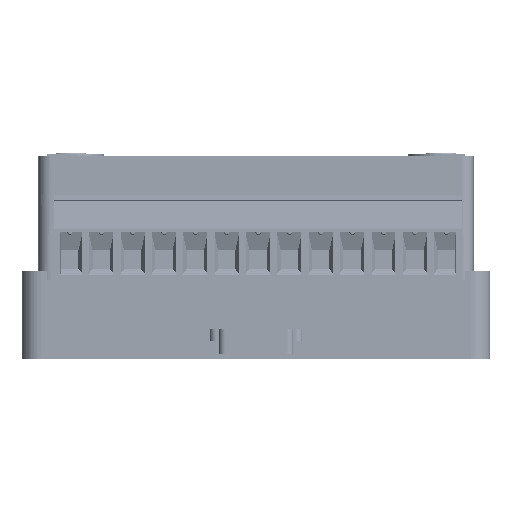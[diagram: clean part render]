
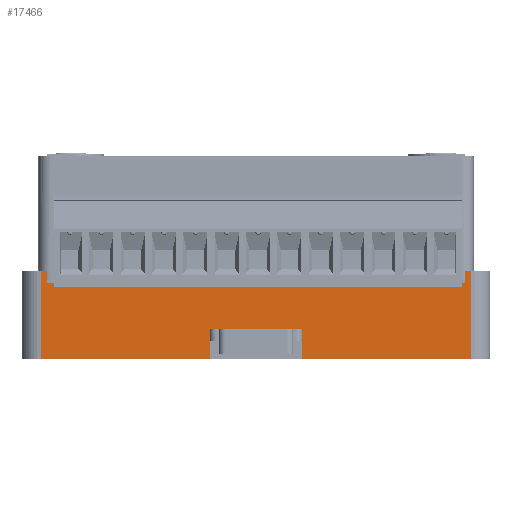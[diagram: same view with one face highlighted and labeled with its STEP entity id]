
A CAD part, front view. The second image highlights one B-rep face of the part: STEP entity #17466.
In plain terms, the highlighted planar face has unit normal (0, -1, 0).
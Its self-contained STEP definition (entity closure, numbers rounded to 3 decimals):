
#17466=ADVANCED_FACE('',(#86034),#86036,.F.);
#86034=FACE_BOUND('',#86035,.T.);
#86035=EDGE_LOOP('',(#137055,#137056,#137057,#137058,#137059,#137060,#137061,#137062,
#137063,#137064,#137065,#137066,#137067,#137068,#137069,#137070));
#86036=PLANE('',#86037);
#86037=AXIS2_PLACEMENT_3D('',#86038,#86039,#86040);
#86038=CARTESIAN_POINT('',(-37.9,-51.95,14.4));
#86039=DIRECTION('',(0.,1.,0.));
#86040=DIRECTION('',(0.,0.,1.));
#137055=ORIENTED_EDGE('',*,*,#189620,.F.);
#137056=ORIENTED_EDGE('',*,*,#189621,.F.);
#137057=ORIENTED_EDGE('',*,*,#189622,.T.);
#137058=ORIENTED_EDGE('',*,*,#189623,.T.);
#137059=ORIENTED_EDGE('',*,*,#189624,.T.);
#137060=ORIENTED_EDGE('',*,*,#189434,.F.);
#137061=ORIENTED_EDGE('',*,*,#189466,.T.);
#137062=ORIENTED_EDGE('',*,*,#189464,.F.);
#137063=ORIENTED_EDGE('',*,*,#189463,.T.);
#137064=ORIENTED_EDGE('',*,*,#189450,.F.);
#137065=ORIENTED_EDGE('',*,*,#189625,.T.);
#137066=ORIENTED_EDGE('',*,*,#189626,.T.);
#137067=ORIENTED_EDGE('',*,*,#189627,.F.);
#137068=ORIENTED_EDGE('',*,*,#189628,.F.);
#137069=ORIENTED_EDGE('',*,*,#189629,.F.);
#137070=ORIENTED_EDGE('',*,*,#189470,.F.);
#189434=EDGE_CURVE('',#215297,#215299,#215300,.T.);
#189450=EDGE_CURVE('',#215326,#215318,#215328,.T.);
#189463=EDGE_CURVE('',#215346,#215318,#215348,.T.);
#189464=EDGE_CURVE('',#215346,#215349,#215350,.T.);
#189466=EDGE_CURVE('',#215297,#215349,#215352,.T.);
#189470=EDGE_CURVE('',#215356,#215358,#215359,.T.);
#189620=EDGE_CURVE('',#215593,#215356,#215594,.T.);
#189621=EDGE_CURVE('',#215595,#215593,#215596,.T.);
#189622=EDGE_CURVE('',#215595,#215597,#215598,.T.);
#189623=EDGE_CURVE('',#215597,#215599,#215600,.T.);
#189624=EDGE_CURVE('',#215599,#215299,#215601,.T.);
#189625=EDGE_CURVE('',#215326,#215602,#215603,.T.);
#189626=EDGE_CURVE('',#215602,#215604,#215605,.T.);
#189627=EDGE_CURVE('',#215606,#215604,#215607,.T.);
#189628=EDGE_CURVE('',#215608,#215606,#215609,.T.);
#189629=EDGE_CURVE('',#215358,#215608,#215610,.T.);
#215297=VERTEX_POINT('',#274654);
#215299=VERTEX_POINT('',#274658);
#215300=LINE('',#274659,#274660);
#215318=VERTEX_POINT('',#274701);
#215326=VERTEX_POINT('',#274718);
#215328=LINE('',#274723,#274724);
#215346=VERTEX_POINT('',#274765);
#215348=LINE('',#274769,#274770);
#215349=VERTEX_POINT('',#274772);
#215350=LINE('',#274773,#274774);
#215352=LINE('',#274779,#274780);
#215356=VERTEX_POINT('',#274789);
#215358=VERTEX_POINT('',#274793);
#215359=LINE('',#274794,#274795);
#215593=VERTEX_POINT('',#275349);
#215594=LINE('',#275350,#275351);
#215595=VERTEX_POINT('',#275353);
#215596=LINE('',#275354,#275355);
#215597=VERTEX_POINT('',#275357);
#215598=LINE('',#275358,#275359);
#215599=VERTEX_POINT('',#275361);
#215600=LINE('',#275362,#275363);
#215601=LINE('',#275365,#275366);
#215602=VERTEX_POINT('',#275368);
#215603=LINE('',#275369,#275370);
#215604=VERTEX_POINT('',#275372);
#215605=LINE('',#275373,#275374);
#215606=VERTEX_POINT('',#275376);
#215607=LINE('',#275377,#275378);
#215608=VERTEX_POINT('',#275380);
#215609=LINE('',#275381,#275382);
#215610=LINE('',#275384,#275385);
#274654=CARTESIAN_POINT('',(33.85,-51.95,14.4));
#274658=CARTESIAN_POINT('',(34.9,-51.95,14.4));
#274659=CARTESIAN_POINT('',(33.85,-51.95,14.4));
#274660=VECTOR('',#274661,1.);
#274661=DIRECTION('',(1.,0.,0.));
#274701=CARTESIAN_POINT('',(-33.85,-51.95,14.4));
#274718=CARTESIAN_POINT('',(-34.9,-51.95,14.4));
#274723=CARTESIAN_POINT('',(-34.9,-51.95,14.4));
#274724=VECTOR('',#274725,1.);
#274725=DIRECTION('',(1.,0.,0.));
#274765=CARTESIAN_POINT('',(-33.85,-51.95,12.4));
#274769=CARTESIAN_POINT('',(-33.85,-51.95,12.4));
#274770=VECTOR('',#274771,1.);
#274771=DIRECTION('',(0.,0.,1.));
#274772=CARTESIAN_POINT('',(33.85,-51.95,12.4));
#274773=CARTESIAN_POINT('',(-33.85,-51.95,12.4));
#274774=VECTOR('',#274775,1.);
#274775=DIRECTION('',(1.,0.,0.));
#274779=CARTESIAN_POINT('',(33.85,-51.95,14.4));
#274780=VECTOR('',#274781,1.);
#274781=DIRECTION('',(0.,0.,-1.));
#274789=CARTESIAN_POINT('',(4.,-51.95,5.));
#274793=CARTESIAN_POINT('',(-4.,-51.95,5.));
#274794=CARTESIAN_POINT('',(4.,-51.95,5.));
#274795=VECTOR('',#274796,1.);
#274796=DIRECTION('',(-1.,0.,0.));
#275349=CARTESIAN_POINT('',(6.936,-51.95,5.));
#275350=CARTESIAN_POINT('',(6.936,-51.95,5.));
#275351=VECTOR('',#275352,1.);
#275352=DIRECTION('',(-1.,0.,0.));
#275353=CARTESIAN_POINT('',(7.5,-51.95,5.));
#275354=CARTESIAN_POINT('',(7.5,-51.95,5.));
#275355=VECTOR('',#275356,1.);
#275356=DIRECTION('',(-1.,0.,0.));
#275357=CARTESIAN_POINT('',(7.5,-51.95,0.));
#275358=CARTESIAN_POINT('',(7.5,-51.95,5.));
#275359=VECTOR('',#275360,1.);
#275360=DIRECTION('',(0.,0.,-1.));
#275361=CARTESIAN_POINT('',(34.9,-51.95,0.));
#275362=CARTESIAN_POINT('',(7.5,-51.95,0.));
#275363=VECTOR('',#275364,1.);
#275364=DIRECTION('',(1.,0.,0.));
#275365=CARTESIAN_POINT('',(34.9,-51.95,0.));
#275366=VECTOR('',#275367,1.);
#275367=DIRECTION('',(0.,0.,1.));
#275368=CARTESIAN_POINT('',(-34.9,-51.95,0.));
#275369=CARTESIAN_POINT('',(-34.9,-51.95,14.4));
#275370=VECTOR('',#275371,1.);
#275371=DIRECTION('',(0.,0.,-1.));
#275372=CARTESIAN_POINT('',(-7.5,-51.95,0.));
#275373=CARTESIAN_POINT('',(-34.9,-51.95,0.));
#275374=VECTOR('',#275375,1.);
#275375=DIRECTION('',(1.,0.,0.));
#275376=CARTESIAN_POINT('',(-7.5,-51.95,5.));
#275377=CARTESIAN_POINT('',(-7.5,-51.95,5.));
#275378=VECTOR('',#275379,1.);
#275379=DIRECTION('',(0.,0.,-1.));
#275380=CARTESIAN_POINT('',(-6.936,-51.95,5.));
#275381=CARTESIAN_POINT('',(-6.936,-51.95,5.));
#275382=VECTOR('',#275383,1.);
#275383=DIRECTION('',(-1.,0.,0.));
#275384=CARTESIAN_POINT('',(-4.,-51.95,5.));
#275385=VECTOR('',#275386,1.);
#275386=DIRECTION('',(-1.,0.,0.));
